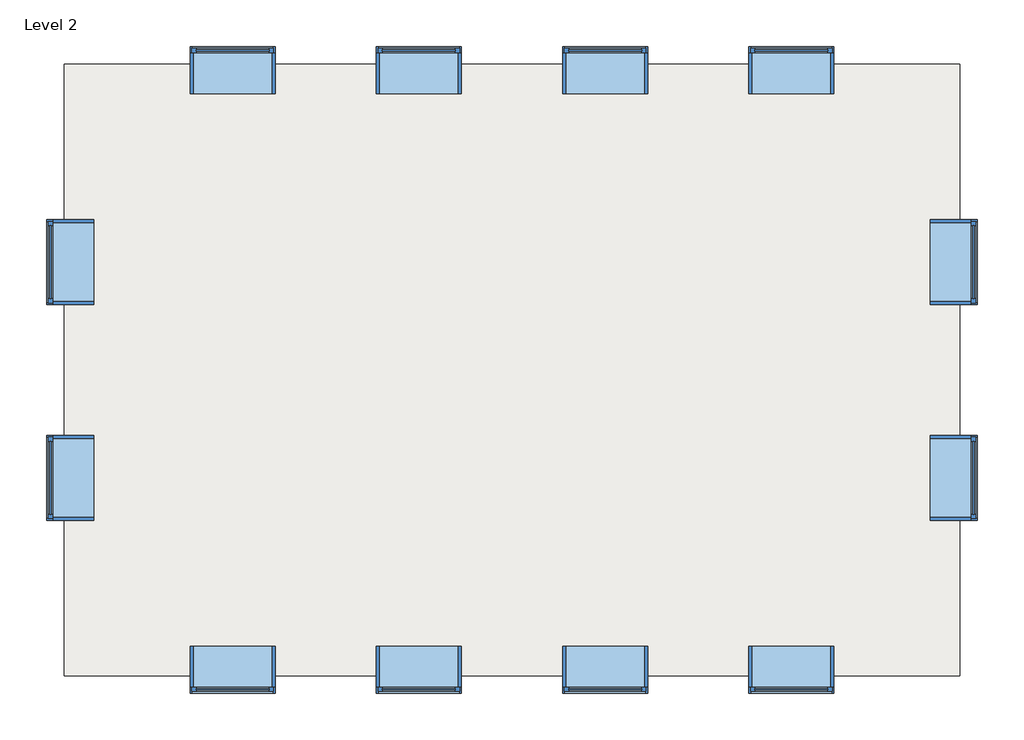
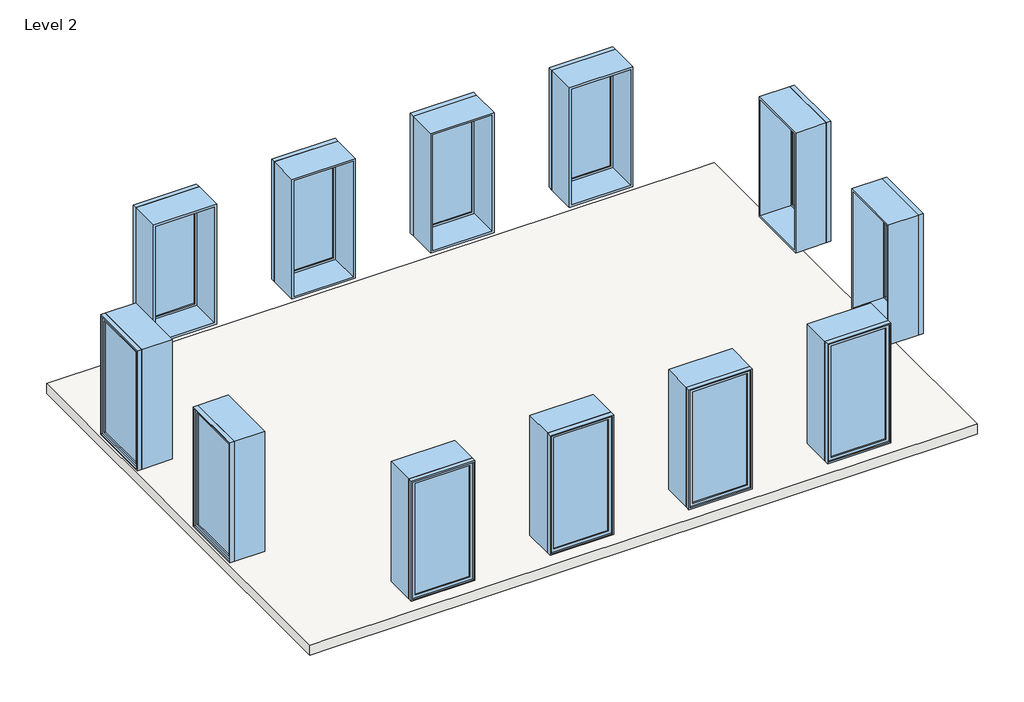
# One storey: 12 windows, 1 slab.
"""IFC4 building model written with IfcOpenShell, lengths in millimetres."""

from ifc_helpers import new_model, si_unit, origin, place, context, project, spatial, faceted_brep, transform, mapped, element, save
from components import m_fixed_900_x_1800mm_11eb3af6, m_fixed_900_x_1800mm_db9ebc56

model = new_model("IFC4")

# Units and contexts
model_context = context("Model", 3, world=origin())
ifc_project = project(units=[si_unit("LENGTHUNIT", "METRE", prefix="MILLI")], contexts=[model_context])

# Site, building, storey
site = spatial("IfcSite", under=ifc_project)
building = spatial("IfcBuilding", under=site)
storey = spatial("IfcBuildingStorey", under=building, Name="Level 2", Elevation=4000.0)

# Slab
placement = place(None, origin())
element("IfcSlab", 1, ObjectType="Generic 150mm", at=placement, inside=storey, context=model_context, shape_type="Brep", body=[
    faceted_brep([(-3423.0128661, 4187.9134487, 3850.0), (5741.9871339, 4187.9134487, 3850.0), (6054.9871339, 4187.9134487, 3850.0), (6054.9871339, -2290.0865513, 3850.0), (5741.9871339, -2290.0865513, 3850.0), (-3110.0128661, -2290.0865513, 3850.0), (-3423.0128661, -2290.0865513, 3850.0), (-3423.0128661, 3874.9134487, 3850.0), (-3423.0128661, 4187.9134487, 4000.0), (-3423.0128661, 3874.9134487, 4000.0), (-3423.0128661, -2290.0865513, 4000.0), (-3110.0128661, -2290.0865513, 4000.0), (5741.9871339, -2290.0865513, 4000.0), (6054.9871339, -2290.0865513, 4000.0), (6054.9871339, 4187.9134487, 4000.0), (5741.9871339, 4187.9134487, 4000.0)], [[[0, 1, 2, 3, 4, 5, 6, 7]], [[8, 9, 10, 11, 12, 13, 14, 15]], [[2, 1, 0, 8, 15, 14]], [[3, 2, 14, 13]], [[6, 5, 4, 3, 13, 12, 11, 10]], [[0, 7, 6, 10, 9, 8]]]),
])

# Windows
m_fixed_900_x_1800mm_shape = m_fixed_900_x_1800mm_11eb3af6(model_context)
element("IfcWindow", 2, ObjectType="M_Fixed : 900 x 1800mm", at=placement, inside=storey, context=model_context, shape_type="MappedRepresentation", body=[
    mapped(m_fixed_900_x_1800mm_shape, transform((-1638.4128661, 4110.9134487, 4000.0), x_axis=(1.0, 0.0, 0.0), y_axis=(0.0, 1.0, 0.0), z_axis=(0.0, 0.0, 1.0))),
])
element("IfcWindow", 3, ObjectType="M_Fixed : 900 x 1800mm", at=placement, inside=storey, context=model_context, shape_type="MappedRepresentation", body=[
    mapped(m_fixed_900_x_1800mm_shape, transform((331.1871339, 4110.9134487, 4000.0), x_axis=(1.0, 0.0, 0.0), y_axis=(0.0, 1.0, 0.0), z_axis=(0.0, 0.0, 1.0))),
])
element("IfcWindow", 4, ObjectType="M_Fixed : 900 x 1800mm", at=placement, inside=storey, context=model_context, shape_type="MappedRepresentation", body=[
    mapped(m_fixed_900_x_1800mm_shape, transform((2300.7871339, 4110.9134487, 4000.0), x_axis=(1.0, 0.0, 0.0), y_axis=(0.0, 1.0, 0.0), z_axis=(0.0, 0.0, 1.0))),
])
element("IfcWindow", 5, ObjectType="M_Fixed : 900 x 1800mm", at=placement, inside=storey, context=model_context, shape_type="MappedRepresentation", body=[
    mapped(m_fixed_900_x_1800mm_shape, transform((4270.3871339, 4110.9134487, 4000.0), x_axis=(1.0, 0.0, 0.0), y_axis=(0.0, 1.0, 0.0), z_axis=(0.0, 0.0, 1.0))),
])
element("IfcWindow", 6, ObjectType="M_Fixed : 900 x 1800mm", at=placement, inside=storey, context=model_context, shape_type="MappedRepresentation", body=[
    mapped(m_fixed_900_x_1800mm_shape, transform((-1638.4128661, -2213.0865513, 4000.0), x_axis=(-1.0, 0.0, 0.0), y_axis=(0.0, -1.0, 0.0), z_axis=(0.0, 0.0, 1.0))),
])
element("IfcWindow", 7, ObjectType="M_Fixed : 900 x 1800mm", at=placement, inside=storey, context=model_context, shape_type="MappedRepresentation", body=[
    mapped(m_fixed_900_x_1800mm_shape, transform((331.1871339, -2213.0865513, 4000.0), x_axis=(-1.0, 0.0, 0.0), y_axis=(0.0, -1.0, 0.0), z_axis=(0.0, 0.0, 1.0))),
])
element("IfcWindow", 8, ObjectType="M_Fixed : 900 x 1800mm", at=placement, inside=storey, context=model_context, shape_type="MappedRepresentation", body=[
    mapped(m_fixed_900_x_1800mm_shape, transform((2300.7871339, -2213.0865513, 4000.0), x_axis=(-1.0, 0.0, 0.0), y_axis=(0.0, -1.0, 0.0), z_axis=(0.0, 0.0, 1.0))),
])
element("IfcWindow", 9, ObjectType="M_Fixed : 900 x 1800mm", at=placement, inside=storey, context=model_context, shape_type="MappedRepresentation", body=[
    mapped(m_fixed_900_x_1800mm_shape, transform((5977.9871339, -192.4198846, 4000.0), x_axis=(0.0, -1.0, 0.0), y_axis=(1.0, 0.0, 0.0), z_axis=(0.0, 0.0, 1.0))),
])
element("IfcWindow", 10, ObjectType="M_Fixed : 900 x 1800mm", at=placement, inside=storey, context=model_context, shape_type="MappedRepresentation", body=[
    mapped(m_fixed_900_x_1800mm_shape, transform((5977.9871339, 2090.246782, 4000.0), x_axis=(0.0, -1.0, 0.0), y_axis=(1.0, 0.0, 0.0), z_axis=(0.0, 0.0, 1.0))),
])
element("IfcWindow", 11, ObjectType="M_Fixed : 900 x 1800mm", at=placement, inside=storey, context=model_context, shape_type="MappedRepresentation", body=[
    mapped(m_fixed_900_x_1800mm_shape, transform((-3346.0128661, 2090.246782, 4000.0), x_axis=(0.0, 1.0, 0.0), y_axis=(-1.0, 0.0, 0.0), z_axis=(0.0, 0.0, 1.0))),
])
element("IfcWindow", 12, ObjectType="M_Fixed : 900 x 1800mm", at=placement, inside=storey, context=model_context, shape_type="MappedRepresentation", body=[
    mapped(m_fixed_900_x_1800mm_shape, transform((-3346.0128661, -192.4198846, 4000.0), x_axis=(0.0, 1.0, 0.0), y_axis=(-1.0, 0.0, 0.0), z_axis=(0.0, 0.0, 1.0))),
])
m_fixed_900_x_1800mm_2_shape = m_fixed_900_x_1800mm_db9ebc56(model_context)
element("IfcWindow", 13, ObjectType="M_Fixed : 900 x 1800mm", at=placement, inside=storey, context=model_context, shape_type="MappedRepresentation", body=[
    mapped(m_fixed_900_x_1800mm_2_shape, transform((4270.3871339, -2213.0865513, 4000.0), x_axis=(1.0, 0.0, 0.0), y_axis=(0.0, 1.0, 0.0), z_axis=(0.0, 0.0, 1.0))),
])

save(model, "model.ifc")
